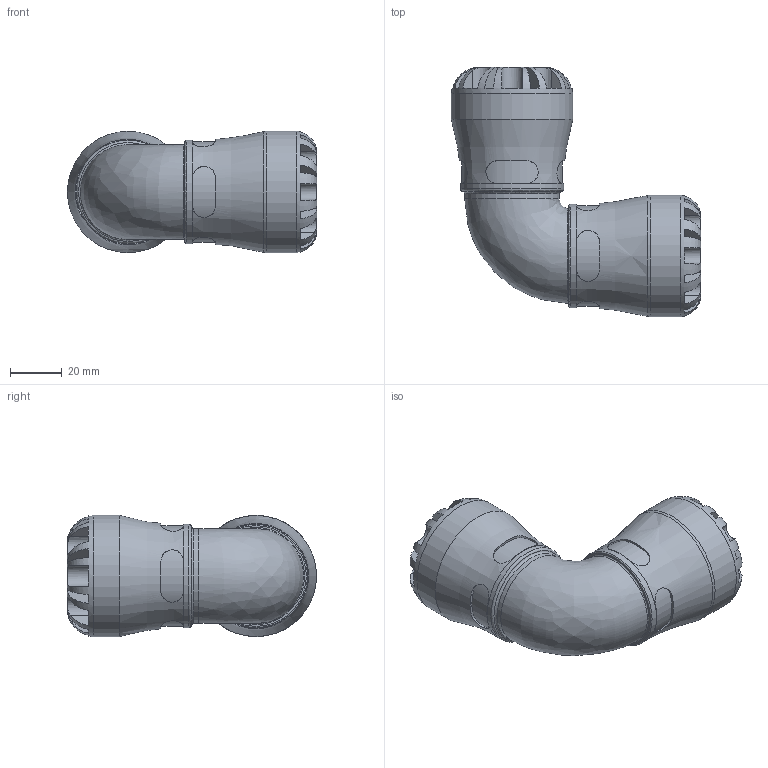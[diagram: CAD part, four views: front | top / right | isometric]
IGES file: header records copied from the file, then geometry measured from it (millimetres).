
Global section: file name: 1005M6025007.ipt; native system: Autodesk Inventor 2015; preprocessor: unknown; author: KIM; date: 20170122.114810; units: millimetre
Bounding box: 96.5 x 96.5 x 47 mm (x, y, z)
Volume: 133752.6 mm3; surface area: 32185.4 mm2
Topology: 1 solids, 1 shells, 195 faces, 510 edges, 324 vertices
Faces by surface type: plane 117, revolution 47, cylinder 29, bspline 2
Full cylindrical faces by diameter (mm): 36.66 x1, 39.95 x2, 47 x2
